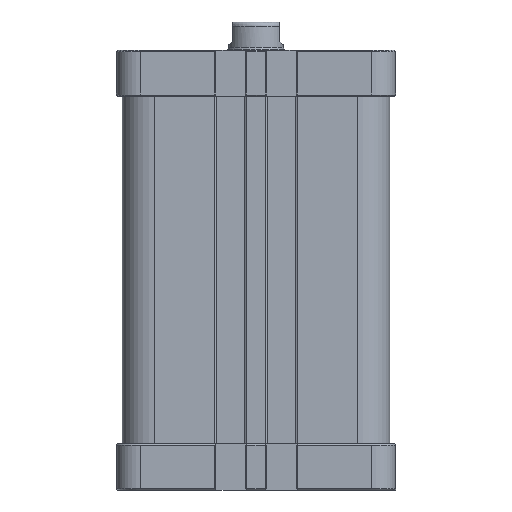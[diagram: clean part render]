
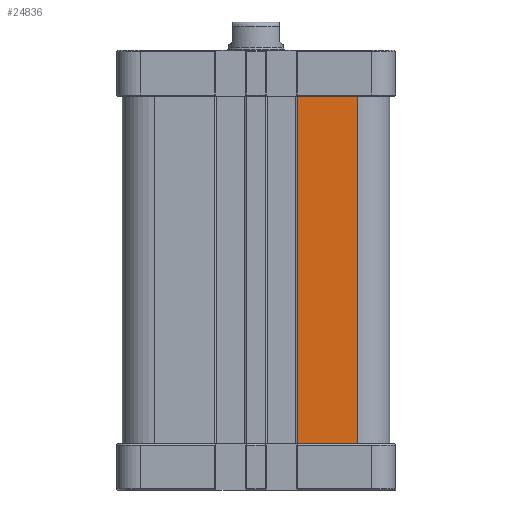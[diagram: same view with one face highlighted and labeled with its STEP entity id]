
A CAD part, front view. The second image highlights one B-rep face of the part: STEP entity #24836.
In plain terms, the highlighted planar face has unit normal (0, -1, 0).
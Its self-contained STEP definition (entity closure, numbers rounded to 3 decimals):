
#1122 = ORIENTED_EDGE ( 'NONE', *, *, #27068, .F. ) ;
#1904 = EDGE_CURVE ( 'NONE', #28653, #32989, #30832, .T. ) ;
#2446 = LINE ( 'NONE', #24935, #4516 ) ;
#4516 = VECTOR ( 'NONE', #22018, 1000. ) ;
#6468 = VECTOR ( 'NONE', #26730, 1000. ) ;
#7137 = EDGE_LOOP ( 'NONE', ( #27740, #24603, #15480, #1122 ) ) ;
#7378 = CARTESIAN_POINT ( 'NONE',  ( 36., -47.5, 23.2 ) ) ;
#8592 = PLANE ( 'NONE',  #30424 ) ;
#8849 = VERTEX_POINT ( 'NONE', #11181 ) ;
#8935 = CARTESIAN_POINT ( 'NONE',  ( 0., -47.5, 23.2 ) ) ;
#9639 = CARTESIAN_POINT ( 'NONE',  ( 14.579, -47.5, -100. ) ) ;
#11181 = CARTESIAN_POINT ( 'NONE',  ( 14.579, -47.5, 23.2 ) ) ;
#12300 = LINE ( 'NONE', #21086, #6468 ) ;
#12597 = EDGE_CURVE ( 'NONE', #8849, #28653, #29219, .T. ) ;
#15069 = DIRECTION ( 'NONE',  ( 0., 0., -1. ) ) ;
#15480 = ORIENTED_EDGE ( 'NONE', *, *, #1904, .T. ) ;
#15537 = CARTESIAN_POINT ( 'NONE',  ( 14.579, -47.5, 23.2 ) ) ;
#16534 = VECTOR ( 'NONE', #31343, 1000. ) ;
#16575 = VERTEX_POINT ( 'NONE', #7378 ) ;
#19192 = FACE_OUTER_BOUND ( 'NONE', #7137, .T. ) ;
#21086 = CARTESIAN_POINT ( 'NONE',  ( 36., -47.5, 23.2 ) ) ;
#21857 = CARTESIAN_POINT ( 'NONE',  ( 36., -47.5, -100. ) ) ;
#22018 = DIRECTION ( 'NONE',  ( 1., 0., 0. ) ) ;
#22381 = DIRECTION ( 'NONE',  ( 0., 1., 0. ) ) ;
#24603 = ORIENTED_EDGE ( 'NONE', *, *, #12597, .T. ) ;
#24836 = ADVANCED_FACE ( 'NONE', ( #19192 ), #8592, .F. ) ;
#24935 = CARTESIAN_POINT ( 'NONE',  ( 0., -47.5, 23.2 ) ) ;
#26730 = DIRECTION ( 'NONE',  ( 0., 0., -1. ) ) ;
#27068 = EDGE_CURVE ( 'NONE', #16575, #32989, #12300, .T. ) ;
#27740 = ORIENTED_EDGE ( 'NONE', *, *, #31465, .F. ) ;
#28653 = VERTEX_POINT ( 'NONE', #9639 ) ;
#29219 = LINE ( 'NONE', #15537, #33468 ) ;
#30197 = DIRECTION ( 'NONE',  ( -1., 0., 0. ) ) ;
#30424 = AXIS2_PLACEMENT_3D ( 'NONE', #8935, #22381, #30197 ) ;
#30832 = LINE ( 'NONE', #34275, #16534 ) ;
#31343 = DIRECTION ( 'NONE',  ( 1., 0., 0. ) ) ;
#31465 = EDGE_CURVE ( 'NONE', #8849, #16575, #2446, .T. ) ;
#32989 = VERTEX_POINT ( 'NONE', #21857 ) ;
#33468 = VECTOR ( 'NONE', #15069, 1000. ) ;
#34275 = CARTESIAN_POINT ( 'NONE',  ( 0., -47.5, -100. ) ) ;
